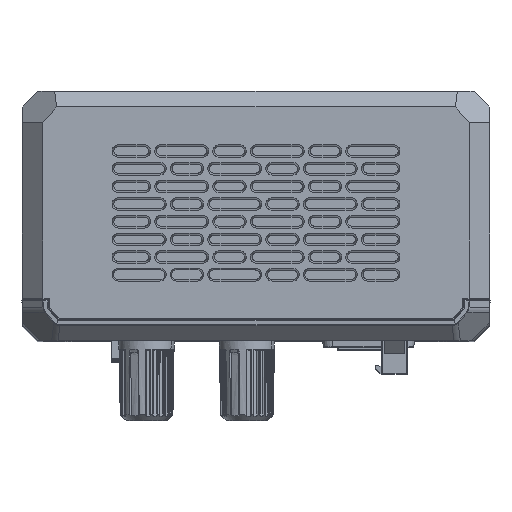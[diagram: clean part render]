
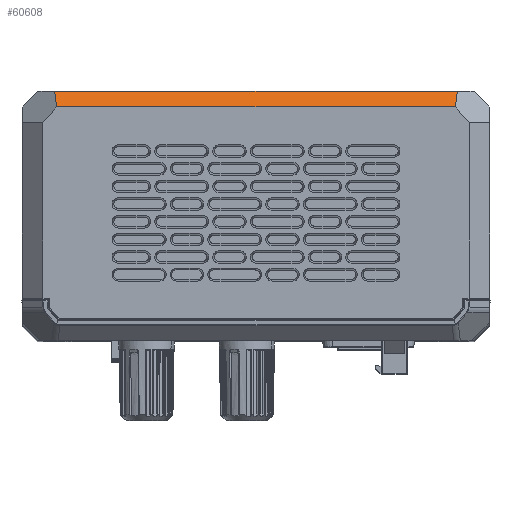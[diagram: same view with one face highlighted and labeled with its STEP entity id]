
A CAD part, top view. The second image highlights one B-rep face of the part: STEP entity #60608.
In plain terms, the highlighted planar face has unit normal (0, 0.707, 0.707).
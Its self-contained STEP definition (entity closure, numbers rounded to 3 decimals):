
#8678=DIRECTION('',(0.085,0.705,-0.705));
#8679=VECTOR('',#8678,4.258);
#8680=CARTESIAN_POINT('',(-380.489,29.675,139.501));
#8681=LINE('',#8680,#8679);
#8694=DIRECTION('',(-0.085,0.705,-0.705));
#8695=VECTOR('',#8694,4.258);
#8696=CARTESIAN_POINT('',(-457.276,29.675,139.501));
#8697=LINE('',#8696,#8695);
#8698=DIRECTION('',(-1.,0.,0.));
#8699=VECTOR('',#8698,76.787);
#8700=CARTESIAN_POINT('',(-380.489,29.675,139.501));
#8701=LINE('',#8700,#8699);
#8742=DIRECTION('',(-1.,0.,0.));
#8743=VECTOR('',#8742,77.515);
#8744=CARTESIAN_POINT('',(-380.125,32.675,136.501));
#8745=LINE('',#8744,#8743);
#43921=CARTESIAN_POINT('',(-457.276,29.675,
139.501));
#43922=VERTEX_POINT('',#43921);
#43923=CARTESIAN_POINT('',(-380.489,29.675,
139.501));
#43924=VERTEX_POINT('',#43923);
#44503=CARTESIAN_POINT('',(-457.64,32.675,
136.501));
#44504=VERTEX_POINT('',#44503);
#44547=CARTESIAN_POINT('',(-380.125,32.675,
136.501));
#44548=VERTEX_POINT('',#44547);
#60596=CARTESIAN_POINT('',(-457.64,29.675,
139.501));
#60597=DIRECTION('',(0.,0.707,0.707));
#60598=DIRECTION('',(1.,0.,0.));
#60599=AXIS2_PLACEMENT_3D('',#60596,#60597,#60598);
#60600=PLANE('',#60599);
#60601=ORIENTED_EDGE('',*,*,#60315,.T.);
#60603=ORIENTED_EDGE('',*,*,#60602,.F.);
#60604=ORIENTED_EDGE('',*,*,#60585,.F.);
#60605=ORIENTED_EDGE('',*,*,#59605,.T.);
#60606=EDGE_LOOP('',(#60601,#60603,#60604,#60605));
#60607=FACE_OUTER_BOUND('',#60606,.F.);
#60608=ADVANCED_FACE('',(#60607),#60600,.T.);
#59605=EDGE_CURVE('',#43924,#43922,#8701,.T.);
#60315=EDGE_CURVE('',#43922,#44504,#8697,.T.);
#60585=EDGE_CURVE('',#43924,#44548,#8681,.T.);
#60602=EDGE_CURVE('',#44548,#44504,#8745,.T.);
